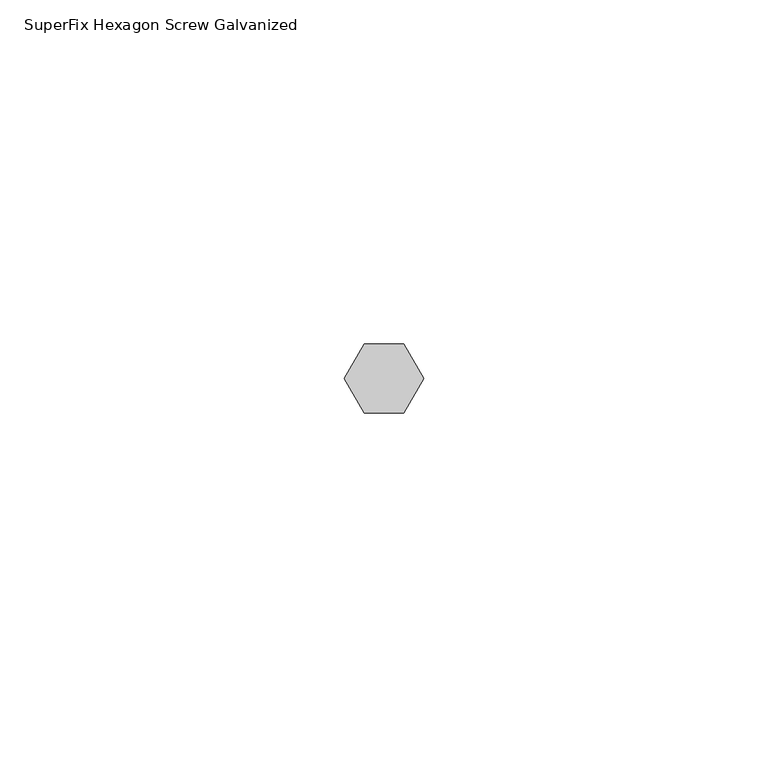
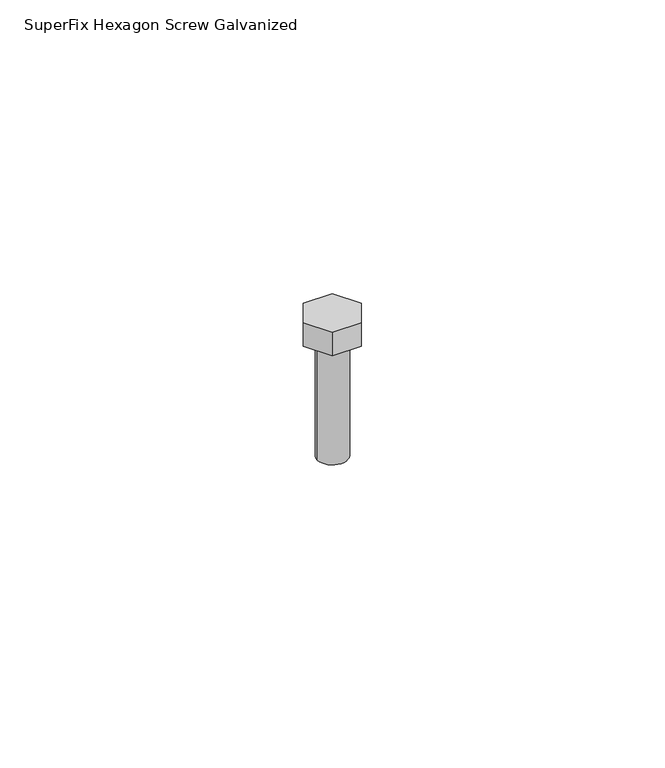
"""IFC4 building model written with IfcOpenShell, lengths in millimetres: valve geometry, SuperFix Hexagon Screw Galvanized : Hexagon Screw Galvanized Extra  M6 × 25."""

from ifc_helpers import new_model, si_unit, frame, origin, origin_with_axes, place, context, project, spatial, circle_curve, source, transform, mapped, element, save
from ifc_brep_helpers import plane_surface, cylinder_surface, advanced_brep


def superfix_hexagon_screw_galvanized_3348ddcd(model_context):
    return source(origin(), model_context, "Body", "AdvancedBrep", [
        advanced_brep(
        [(-5.7735027, 0.0, 5.0), (-2.8867513, -5.0, 5.0), (2.8867513, -5.0, 5.0), (5.7735027, 0.0, 5.0), (2.8867513, 5.0, 5.0), (-2.8867513, 5.0, 5.0), (-5.7735027, 0.0, 0.0), (-2.8867513, 5.0, 0.0), (2.8867513, 5.0, 0.0), (5.7735027, 0.0, 0.0), (2.8867513, -5.0, 0.0), (-2.8867513, -5.0, 0.0), (-3.0, 0.0, 0.0), (3.0, 0.0, 0.0), (-3.0, 0.0, -25.0), (3.0, 0.0, -25.0)],
        [
            (0, 1),
            (1, 2),
            (2, 3),
            (3, 4),
            (4, 5),
            (5, 0),
            (6, 7),
            (7, 8),
            (8, 9),
            (9, 10),
            (10, 11),
            (11, 6),
            (12, 13, circle_curve(origin_with_axes(), 3.0)),
            (13, 12, circle_curve(origin_with_axes(), 3.0)),
            (0, 6),
            (11, 1),
            (10, 2),
            (9, 3),
            (8, 4),
            (7, 5),
            (14, 15, circle_curve(frame((0.0, 0.0, -25.0), z_axis=(0.0, 0.0, -1.0), x_axis=(1.0, 0.0, 0.0)), 3.0)),
            (15, 14, circle_curve(frame((0.0, 0.0, -25.0), z_axis=(0.0, 0.0, -1.0), x_axis=(1.0, 0.0, 0.0)), 3.0)),
            (15, 13),
            (12, 14),
        ],
        [
            plane_surface(frame((-5.7735027, 0.0, 5.0), z_axis=(0.0, 0.0, 1.0000000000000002), x_axis=(0.4999999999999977, -0.8660254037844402, 0.0))),
            plane_surface(frame((-5.7735027, 0.0, 0.0), z_axis=(0.0, 0.0, -1.0000000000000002), x_axis=(-0.4999999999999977, 0.8660254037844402, 0.0))),
            plane_surface(frame((-5.7735027, 0.0, 5.0), z_axis=(-0.8660254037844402, -0.4999999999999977, 0.0), x_axis=(0.0, 0.0, -1.0))),
            plane_surface(frame((-2.8867513, -5.0, 5.0), z_axis=(0.0, -1.0, 0.0), x_axis=(0.0, 0.0, -1.0))),
            plane_surface(frame((2.8867513, -5.0, 5.0), z_axis=(0.8660254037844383, -0.5000000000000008, 0.0), x_axis=(0.0, 0.0, -1.0))),
            plane_surface(frame((5.7735027, 0.0, 5.0), z_axis=(0.8660254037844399, 0.4999999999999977, 0.0), x_axis=(0.0, 0.0, -1.0))),
            plane_surface(frame((2.8867513, 5.0, 5.0), z_axis=(0.0, 1.0, 0.0), x_axis=(0.0, 0.0, -1.0))),
            plane_surface(frame((-2.8867513, 5.0, 5.0), z_axis=(-0.8660254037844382, 0.500000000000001, 0.0), x_axis=(0.0, 0.0, -1.0))),
            plane_surface(frame((3.0, 0.0, -25.0), z_axis=(0.0, 0.0, -1.0), x_axis=(0.0, -1.0, 0.0))),
            cylinder_surface(frame((0.0, 0.0, -25.0), z_axis=(0.0, 0.0, 1.0), x_axis=(1.0, 0.0, 0.0)), 3.0),
        ],
        [
            (0, [[1, 2, 3, 4, 5, 6]]),
            (1, [[7, 8, 9, 10, 11, 12], [13, 14]]),
            (2, [[-1, 15, -12, 16]]),
            (3, [[-2, -16, -11, 17]]),
            (4, [[-3, -17, -10, 18]]),
            (5, [[-4, -18, -9, 19]]),
            (6, [[-5, -19, -8, 20]]),
            (7, [[-6, -20, -7, -15]]),
            (8, [[21, 22]]),
            (9, [[-22, 23, -13, 24]]),
            (9, [[-21, -24, -14, -23]]),
        ],
    ),
    ])


if __name__ == "__main__":
    model = new_model("IFC4")
    model_context = context("Model", 3, world=origin())
    ifc_project = project(units=[si_unit("LENGTHUNIT", "METRE", prefix="MILLI")], contexts=[model_context])
    site = spatial("IfcSite", under=ifc_project)
    building = spatial("IfcBuilding", under=site)
    placement = place(None, origin())
    superfix_hexagon_screw_galvanized_shape = superfix_hexagon_screw_galvanized_3348ddcd(model_context)
    element("IfcValve", 1, ObjectType="SuperFix Hexagon Screw Galvanized : Hexagon Screw Galvanized Extra  M6 × 25", at=placement, inside=building, context=model_context, shape_type="MappedRepresentation", body=[
        mapped(superfix_hexagon_screw_galvanized_shape, transform((0.0, 0.0, 0.0), x_axis=(1.0, 0.0, 0.0), y_axis=(0.0, 1.0, 0.0), z_axis=(0.0, 0.0, 1.0))),
    ])
    save(model, "model.ifc")
